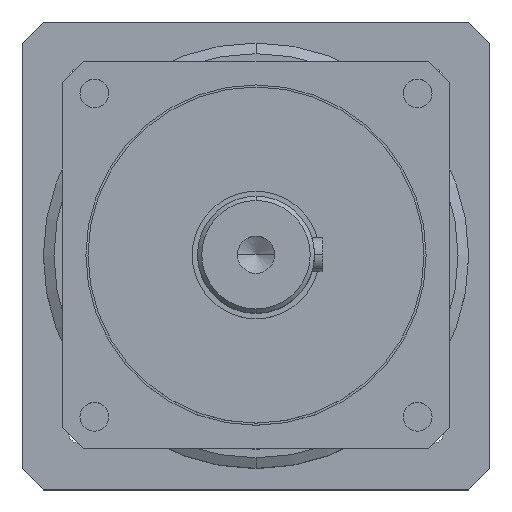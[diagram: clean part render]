
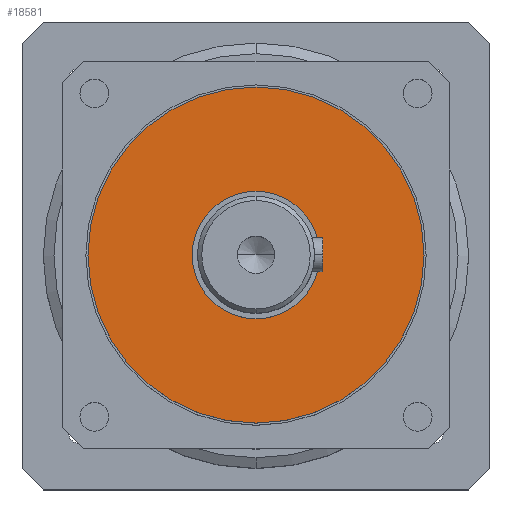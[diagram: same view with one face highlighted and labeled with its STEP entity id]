
A CAD part, top view. The second image highlights one B-rep face of the part: STEP entity #18581.
In plain terms, the highlighted planar face has unit normal (0, 0, 1).
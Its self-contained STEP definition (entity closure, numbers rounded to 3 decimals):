
#101 = CARTESIAN_POINT ( 'NONE',  ( 30., 0., 6. ) ) ;
#113 = CARTESIAN_POINT ( 'NONE',  ( 0., 0., 6. ) ) ;
#302 = AXIS2_PLACEMENT_3D ( 'NONE', #113, #17447, #2699 ) ;
#1790 = DIRECTION ( 'NONE',  ( 1., 0., 0. ) ) ;
#1817 = CIRCLE ( 'NONE', #29529, 30. ) ;
#2699 = DIRECTION ( 'NONE',  ( -1., 0., 0. ) ) ;
#3145 = CARTESIAN_POINT ( 'NONE',  ( 0., 0., 6. ) ) ;
#3955 = ORIENTED_EDGE ( 'NONE', *, *, #12961, .F. ) ;
#4002 = AXIS2_PLACEMENT_3D ( 'NONE', #4253, #16583, #1790 ) ;
#4253 = CARTESIAN_POINT ( 'NONE',  ( 0., 0., 6. ) ) ;
#5762 = DIRECTION ( 'NONE',  ( 1., 0., 0. ) ) ;
#6105 = EDGE_CURVE ( 'NONE', #18778, #8663, #25901, .T. ) ;
#8530 = FACE_OUTER_BOUND ( 'NONE', #10005, .T. ) ;
#8663 = VERTEX_POINT ( 'NONE', #18264 ) ;
#9270 = DIRECTION ( 'NONE',  ( 0., 0., -1. ) ) ;
#10005 = EDGE_LOOP ( 'NONE', ( #31304, #3955 ) ) ;
#12509 = DIRECTION ( 'NONE',  ( 0., 0., -1. ) ) ;
#12961 = EDGE_CURVE ( 'NONE', #21602, #14128, #25249, .T. ) ;
#13242 = ORIENTED_EDGE ( 'NONE', *, *, #6105, .T. ) ;
#13543 = EDGE_LOOP ( 'NONE', ( #24375, #13242 ) ) ;
#14094 = PLANE ( 'NONE',  #4002 ) ;
#14128 = VERTEX_POINT ( 'NONE', #28249 ) ;
#16583 = DIRECTION ( 'NONE',  ( 0., 0., 1. ) ) ;
#16839 = AXIS2_PLACEMENT_3D ( 'NONE', #27429, #12509, #29917 ) ;
#17447 = DIRECTION ( 'NONE',  ( 0., 0., -1. ) ) ;
#18264 = CARTESIAN_POINT ( 'NONE',  ( -30., 0., 6. ) ) ;
#18463 = AXIS2_PLACEMENT_3D ( 'NONE', #3145, #20427, #5762 ) ;
#18547 = EDGE_CURVE ( 'NONE', #8663, #18778, #1817, .T. ) ;
#18581 = ADVANCED_FACE ( 'NONE', ( #20805, #8530 ), #14094, .T. ) ;
#18778 = VERTEX_POINT ( 'NONE', #101 ) ;
#20427 = DIRECTION ( 'NONE',  ( 0., 0., -1. ) ) ;
#20805 = FACE_BOUND ( 'NONE', #13543, .T. ) ;
#21602 = VERTEX_POINT ( 'NONE', #26681 ) ;
#24050 = CARTESIAN_POINT ( 'NONE',  ( 0., 0., 6. ) ) ;
#24375 = ORIENTED_EDGE ( 'NONE', *, *, #18547, .T. ) ;
#25249 = CIRCLE ( 'NONE', #18463, 79. ) ;
#25901 = CIRCLE ( 'NONE', #302, 30. ) ;
#26405 = EDGE_CURVE ( 'NONE', #14128, #21602, #31354, .T. ) ;
#26565 = DIRECTION ( 'NONE',  ( -1., 0., 0. ) ) ;
#26681 = CARTESIAN_POINT ( 'NONE',  ( -79., 0., 6. ) ) ;
#27429 = CARTESIAN_POINT ( 'NONE',  ( 0., 0., 6. ) ) ;
#28249 = CARTESIAN_POINT ( 'NONE',  ( 79., 0., 6. ) ) ;
#29529 = AXIS2_PLACEMENT_3D ( 'NONE', #24050, #9270, #26565 ) ;
#29917 = DIRECTION ( 'NONE',  ( 1., 0., 0. ) ) ;
#31304 = ORIENTED_EDGE ( 'NONE', *, *, #26405, .F. ) ;
#31354 = CIRCLE ( 'NONE', #16839, 79. ) ;
